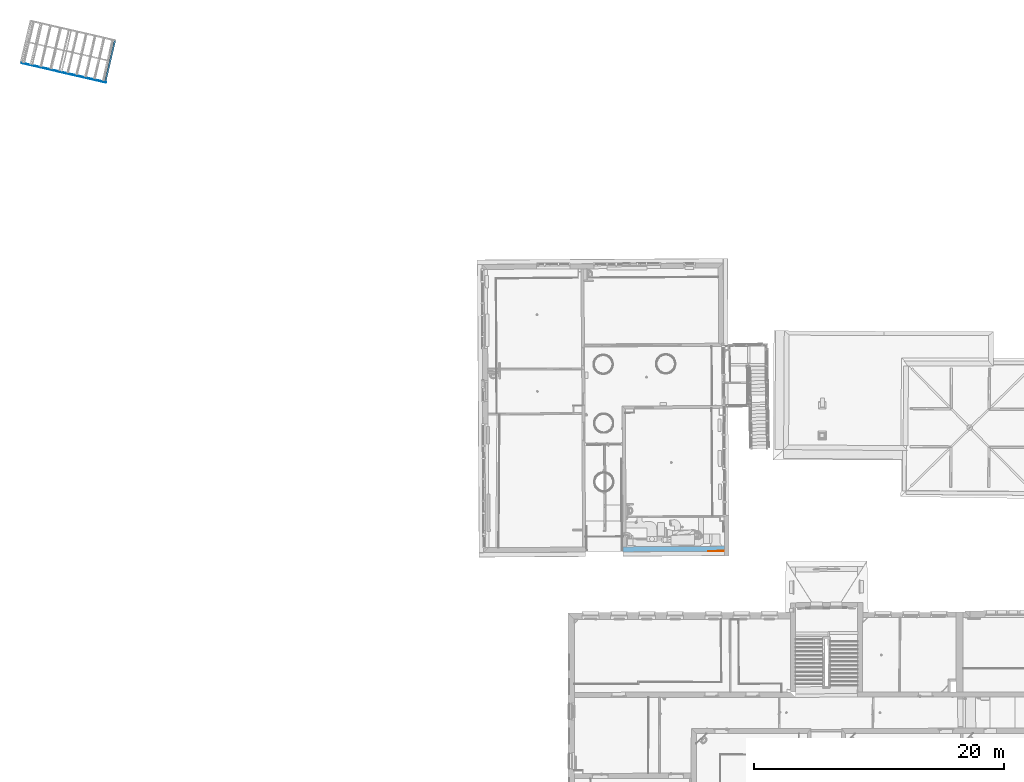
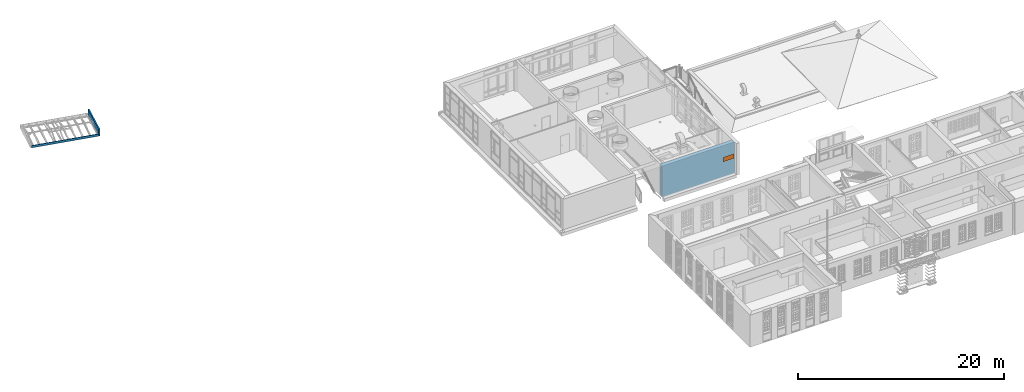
# One storey, part 73 of 158: 2 walls, 1 proxy, 1 opening, plus 1 element that does not belong to this part.
"""IFC2X3 building model written with IfcOpenShell, lengths in metres."""

from ifc_helpers import new_model, entity, si_unit, converted_unit, derived_unit, money_unit, direction, frame, origin_with_axes, origin_2d_with_axis, place, context, subcontext, project, spatial, polyline, rectangle, outline, extrude, boolean, faceted_brep, material, layer, layer_set, layer_usage, type_object, element, fill, save


model = new_model("IFC2X3")

# Units and contexts
model_context = context("Model", 3, precision=1e-05, world=origin_with_axes(), true_north=direction((0.0, 1.0)))
body_context = subcontext(model_context, "Body", "Model", "MODEL_VIEW")
ifc_project = project(units=[si_unit("LENGTHUNIT", "METRE"), si_unit("AREAUNIT", "SQUARE_METRE"), si_unit("VOLUMEUNIT", "CUBIC_METRE"), converted_unit("PLANEANGLEUNIT", "DEGREE", entity("IfcPlaneAngleMeasure", 0.0174532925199), si_unit("PLANEANGLEUNIT", "RADIAN"), dimensions=[0, 0, 0, 0, 0, 0, 0]), money_unit("EUR"), converted_unit("TIMEUNIT", "Year", entity("IfcTimeMeasure", 31556926.0), si_unit("TIMEUNIT", "SECOND"), dimensions=[0, 0, 1, 0, 0, 0, 0]), si_unit("MASSUNIT", "GRAM", prefix="KILO"), si_unit("THERMODYNAMICTEMPERATUREUNIT", "DEGREE_CELSIUS"), si_unit("LUMINOUSINTENSITYUNIT", "LUMEN"), si_unit("ENERGYUNIT", "JOULE", prefix="MEGA"), derived_unit("THERMALCONDUCTANCEUNIT", [(si_unit("POWERUNIT", "WATT"), 1), (si_unit("LENGTHUNIT", "METRE"), -1), (si_unit("THERMODYNAMICTEMPERATUREUNIT", "KELVIN"), -1)]), derived_unit("SPECIFICHEATCAPACITYUNIT", [(si_unit("ENERGYUNIT", "JOULE"), 1), (si_unit("MASSUNIT", "GRAM", prefix="KILO"), -1), (si_unit("THERMODYNAMICTEMPERATUREUNIT", "KELVIN"), -1)]), derived_unit("MASSDENSITYUNIT", [(si_unit("MASSUNIT", "GRAM", prefix="KILO"), 1), (si_unit("VOLUMEUNIT", "CUBIC_METRE"), -1)])], contexts=[model_context])

# Site, building, storey
site_placement = place(None, origin_with_axes())
site = spatial("IfcSite", under=ifc_project, at=site_placement, Name="Gelände", CompositionType="ELEMENT")
building_placement = place(site_placement, origin_with_axes())
building = spatial("IfcBuilding", under=site, at=building_placement, Name="Gebäude", CompositionType="ELEMENT")
storey_placement = place(building_placement, origin_with_axes())
storey = spatial("IfcBuildingStorey", under=building, at=storey_placement, Name="ERDGESCHOSS", CompositionType="ELEMENT", Elevation=0.0)

# Wall, opening, proxy
ifc_material = material(Name="05_ALLGEMEIN - TRAGENDE BAUTEILE")
ifc_layer = layer(ifc_material, 0.4, ventilated="UNKNOWN")
ifc_layer_set = layer_set([ifc_layer], Name="05_ALLGEMEIN - TRAGENDE BAUTEILE 0.4")
ifc_layer_usage = layer_usage(ifc_layer_set, "AXIS2", "NEGATIVE", 0.4)
wall_type_1 = type_object("IfcWallType", Name="05_ALLGEMEIN - TRAGENDE BAUTEILE 400", PredefinedType="ELEMENTEDWALL")
wall_1_placement = place(storey_placement, frame((-23.6482681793, 30.9080833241, 1.06), z_axis=(0.0, 0.0, 1.0), x_axis=(0.99998208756, 0.00598536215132, 0.0)))
wall_1 = element("IfcWallStandardCase", 1, at=wall_1_placement, inside=storey, type_object=wall_type_1, material=ifc_layer_usage, Name="Wand-030", ObjectType="ELEMENTEDWALL", context=body_context, shape_type="SweptSolid", body=[
    extrude(outline(polyline([(0.0, 0.0), (8.11228080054, 0.0), (8.11158811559, 0.4), (0.0, 0.4), (0.0, 0.0)])), origin_with_axes(), (0.0, 0.0, 1.0), 3.74),
])
opening_placement = place(wall_1_placement, frame((7.44071415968, 0.0, 1.81735066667), z_axis=(0.0, 0.0, 1.0), x_axis=(1.0, 0.0, 0.0)))
opening = element("IfcOpeningElement", 2, at=opening_placement, cuts=wall_1, Name="Fenster-015", context=body_context, shape_type="SweptSolid", body=[
    extrude(rectangle(XDim=1.2313048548, YDim=0.534565, at=origin_2d_with_axis()), frame((0.0, 0.4, 0.2672825), z_axis=(0.0, 1.0, 0.0), x_axis=(-1.0, 0.0, 0.0)), (0.0, 0.0, -1.0), 1.2),
])
building_element_proxy_type = type_object("IfcBuildingElementProxyType", Name="1-Flügelfenster 25", PredefinedType="NOTDEFINED")
proxy_placement = place(opening_placement, frame((-0.615652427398, 0.0, 0.0), z_axis=(0.0, 0.0, 1.0), x_axis=(1.0, 0.0, 0.0)))
proxy = element("IfcBuildingElementProxy", 3, at=proxy_placement, inside=storey, type_object=building_element_proxy_type, Name="Fenster-015", context=body_context, shape_type="Brep", body=[
    faceted_brep([(1.2313048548, 0.0, 0.0), (1.2312048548, 0.0, 0.0001), (1.2312048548, 0.02, 0.0001), (1.2313048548, 0.02, 0.0), (1.2313048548, 0.0, 0.534565), (1.2312048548, 0.0, 0.534465), (1.2312048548, 0.02, 0.534465), (1.2313048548, 0.02, 0.534565)], [[[0, 1, 2, 3]], [[0, 4, 5, 1]], [[1, 5, 6, 2]], [[3, 2, 6, 7]], [[4, 0, 3, 7]], [[5, 4, 7, 6]]]),
    faceted_brep([(0.0, 0.0, 0.0), (0.0, 0.0, 0.534565), (0.0, 0.02, 0.534565), (0.0, 0.02, 0.0), (9.99999999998e-05, 0.0, 0.0001), (9.99999999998e-05, 0.0, 0.534465), (0.000100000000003, 0.02, 0.534465), (0.000100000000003, 0.02, 0.0001)], [[[0, 1, 2, 3]], [[0, 4, 5, 1]], [[1, 5, 6, 2]], [[3, 2, 6, 7]], [[4, 0, 3, 7]], [[5, 4, 7, 6]]]),
    faceted_brep([(1.2313048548, 0.0, 0.0), (0.0, 0.0, 0.0), (0.0, 0.02, 0.0), (1.2313048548, 0.02, 0.0), (1.2312048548, 0.0, 0.0001), (0.615652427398, 0.0, 0.0001), (9.99999999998e-05, 0.0, 0.0001), (0.000100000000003, 0.02, 0.0001), (0.615652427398, 0.02, 0.0001), (1.2312048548, 0.02, 0.0001)], [[[0, 1, 2, 3]], [[0, 4, 5, 6, 1]], [[1, 6, 7, 2]], [[3, 2, 7, 8, 9]], [[4, 0, 3, 9]], [[5, 4, 9, 8]], [[6, 5, 8, 7]]]),
    faceted_brep([(1.2313048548, 0.0, 0.534565), (1.2312048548, 0.0, 0.534465), (1.2312048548, 0.02, 0.534465), (1.2313048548, 0.02, 0.534565), (0.0, 0.0, 0.534565), (9.99999999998e-05, 0.0, 0.534465), (0.615652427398, 0.0, 0.534465), (0.615652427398, 0.02, 0.534465), (0.000100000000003, 0.02, 0.534465), (0.0, 0.02, 0.534565)], [[[0, 1, 2, 3]], [[0, 4, 5, 6, 1]], [[1, 6, 7, 2]], [[3, 2, 7, 8, 9]], [[4, 0, 3, 9]], [[5, 4, 9, 8]], [[6, 5, 8, 7]]]),
    faceted_brep([(1.2312048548, 0.005, 0.0001), (9.99999999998e-05, 0.005, 0.0001), (0.000100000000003, 0.015, 0.0001), (1.2312048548, 0.015, 0.0001), (1.2312048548, 0.005, 0.534465), (9.99999999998e-05, 0.005, 0.534465), (0.000100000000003, 0.015, 0.534465), (1.2312048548, 0.015, 0.534465)], [[[0, 1, 2, 3]], [[0, 4, 5, 1]], [[1, 5, 6, 2]], [[3, 2, 6, 7]], [[4, 0, 3, 7]], [[5, 4, 7, 6]]]),
])
fill(opening, proxy)

# Walls
wall_type_2 = type_object("IfcWallType", Name="05_ALLGEMEIN - TRAGENDE BAUTEILE 50", PredefinedType="ELEMENTEDWALL")
wall_2_placement = place(storey_placement, frame((-71.9176288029, 70.030164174, 0.1099946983), z_axis=(0.0, 0.0, 1.0), x_axis=(0.97451919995, -0.224304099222, 0.0)))
element("IfcWall", 4, at=wall_2_placement, inside=storey, type_object=wall_type_2, material=ifc_material, Name="Wand-028", ObjectType="ELEMENTEDWALL", context=body_context, shape_type="CSG", body=[
    boolean("DIFFERENCE", boolean("DIFFERENCE", boolean("DIFFERENCE", boolean("DIFFERENCE", boolean("DIFFERENCE", extrude(outline(polyline([(0.0, 0.0), (7.05800514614, 0.0), (7.05800514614, 0.05), (0.0, 0.05), (0.0, 0.0)])), origin_with_axes(), (0.0, 0.0, 1.0), 0.307140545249), faceted_brep([(0.273172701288, 0.05, 0.098087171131), (0.273172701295, 0.05, 0.190286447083), (0.373176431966, 0.05, 0.190280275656), (0.373176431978, 0.05, 0.0977077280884), (0.27283518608, 0.0109266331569, 0.0983663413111), (0.27283518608, 0.0109266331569, 0.190565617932), (0.372831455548, 0.0100628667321, 0.190565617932), (0.372831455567, 0.0100628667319, 0.0979930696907)], [[[0, 1, 2, 3]], [[1, 0, 4, 5]], [[2, 1, 5, 6]], [[3, 2, 6, 7]], [[0, 3, 7, 4]], [[7, 6, 5, 4]]])), faceted_brep([(3.14445843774, 0.05, 0.0868451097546), (3.14445843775, 0.05, 0.180971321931), (3.24446258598, 0.05, 0.180970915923), (3.24446258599, 0.05, 0.0864630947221), (3.1442028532, 0.0219402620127, 0.086857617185), (3.1442028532, 0.0219402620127, 0.180983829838), (3.24419870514, 0.0210294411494, 0.180983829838), (3.24419870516, 0.0210294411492, 0.0864760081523)], [[[0, 1, 2, 3]], [[1, 0, 4, 5]], [[2, 1, 5, 6]], [[3, 2, 6, 7]], [[0, 3, 7, 4]], [[7, 6, 5, 4]]])), faceted_brep([(3.87752996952, 0.05, 0.0842098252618), (3.87752996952, 0.05, 0.187234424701), (3.9775308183, 0.05, 0.187233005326), (3.97753081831, 0.05, 0.0838289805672), (3.87742594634, 0.0247526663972, 0.0842968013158), (3.87742594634, 0.0247526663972, 0.187321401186), (3.97742509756, 0.0243406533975, 0.187321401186), (3.97742509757, 0.0243406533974, 0.0839173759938)], [[[0, 1, 2, 3]], [[1, 0, 4, 5]], [[2, 1, 5, 6]], [[3, 2, 6, 7]], [[0, 3, 7, 4]], [[7, 6, 5, 4]]])), faceted_brep([(4.61142972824, 0.05, 0.0814884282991), (4.61142972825, 0.05, 0.193347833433), (4.71143148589, 0.05, 0.193345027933), (4.7114314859, 0.05, 0.0811080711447), (4.61129672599, 0.0275675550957, 0.0815945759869), (4.61129672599, 0.0275675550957, 0.193453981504), (4.71129496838, 0.0269746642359, 0.193453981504), (4.7112949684, 0.0269746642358, 0.081217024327)], [[[0, 1, 2, 3]], [[1, 0, 4, 5]], [[2, 1, 5, 6]], [[3, 2, 6, 7]], [[0, 3, 7, 4]], [[7, 6, 5, 4]]])), faceted_brep([(7.05800514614, 0.0, 0.251790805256), (7.05800514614, 0.05, 0.263376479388), (7.05800514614, 0.05, 0.307140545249), (7.05800514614, 0.0, 0.307140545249), (0.127313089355, 0.05, 0.270247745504), (0.126970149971, 0.0, 0.25866241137), (0.127313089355, 0.05, 0.000180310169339), (0.127313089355, 0.05, 0.0), (0.0, 0.05, 0.0), (0.0, 0.05, 0.307140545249), (0.127313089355, 0.05, 0.0983546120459), (6.92607372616, 0.05, 0.0723730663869), (6.92607372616, 0.05, 0.0), (0.174496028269, 0.05, 0.0), (0.0, 0.0, 0.307140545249), (0.0, 0.0, 0.0), (0.126970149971, 0.0, 0.0), (0.12720523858, 0.0342755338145, 0.00018095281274), (0.12720523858, 0.0342755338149, 0.0983552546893), (0.127296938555, 0.0103683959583, 0.0983552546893), (6.92612571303, 0.0364464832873, 0.0723730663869), (6.92612571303, 0.0364464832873, 0.0), (0.174647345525, 0.0105500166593, 0.0), (0.127296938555, 0.0103683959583, 0.00018095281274)], [[[0, 1, 2, 3]], [[4, 1, 0, 5]], [[6, 7, 8, 9, 2, 1, 4, 10, 11, 12, 13]], [[9, 14, 3, 2]], [[5, 0, 3, 14, 15, 16]], [[10, 4, 5, 16, 7, 6, 17, 18]], [[7, 16, 15, 8]], [[9, 8, 15, 14]], [[11, 10, 18, 19, 20]], [[12, 11, 20, 21]], [[22, 13, 12, 21]], [[6, 13, 22, 23, 17]], [[19, 18, 17, 23]], [[22, 21, 20, 19, 23]]])),
])
wall_type_3 = type_object("IfcWallType", Name="05_ALLGEMEIN - TRAGENDE BAUTEILE 132", PredefinedType="ELEMENTEDWALL")
wall_3_placement = place(storey_placement, frame((-64.3643140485, 71.921765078, 0.1099946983), z_axis=(0.0, 0.0, 1.0), x_axis=(-0.227241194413, -0.973838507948, 0.0)))
element("IfcWall", 5, at=wall_3_placement, inside=storey, type_object=wall_type_3, material=ifc_material, Name="Wand-029", ObjectType="ELEMENTEDWALL", context=body_context, shape_type="CSG", body=[
    boolean("DIFFERENCE", boolean("DIFFERENCE", boolean("DIFFERENCE", extrude(outline(polyline([(-0.000343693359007, 0.0), (3.53765694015, 0.0), (3.53765694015, 0.132113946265), (-0.000343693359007, 0.132113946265), (-0.000343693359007, 0.0)])), origin_with_axes(), (0.0, 0.0, 1.0), 0.821071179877), faceted_brep([(3.53765694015, 0.132113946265, 0.0), (3.53765694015, 0.0, 0.0), (3.48293023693, 0.0, 0.0), (3.48765661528, 3.23790194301e-05, 0.0), (3.48725885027, 0.131963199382, 0.0), (3.53725862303, 0.132113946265, 0.0), (3.53765694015, 0.132113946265, 0.821071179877), (3.53765694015, 0.0, 0.821071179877), (-0.000343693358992, 0.0, 0.821071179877), (-0.000343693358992, 0.0, 0.0), (0.0, 0.0, 0.0), (0.0, 0.0, 0.247771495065), (1.77234413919, 0.0, 0.660961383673), (3.4876567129, 0.0, 0.263507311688), (3.4876567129, 0.0, 0.0723731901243), (3.48293023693, 0.0, 0.0723730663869), (3.48765661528, 3.23790194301e-05, 0.0723730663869), (3.48725885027, 0.131963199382, 0.263376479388), (3.53722317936, 0.132113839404, 0.251799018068), (3.53722317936, 0.132113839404, 0.0500053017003), (1.77170374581, 0.132113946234, 0.66088649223), (-0.000343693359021, 0.132113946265, 0.247765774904), (-0.000343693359, 0.132113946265, 0.821071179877), (-0.000343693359, 0.132113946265, 0.0)], [[[0, 1, 2, 3, 4, 5]], [[1, 0, 6, 7]], [[2, 1, 7, 8, 9, 10, 11, 12, 13, 14, 15]], [[16, 3, 2, 15]], [[3, 16, 14, 13, 17, 4]], [[18, 19, 5, 4, 17]], [[0, 5, 19, 18, 20, 21, 22, 6]], [[7, 6, 22, 8]], [[21, 23, 9, 8, 22]], [[23, 10, 9]], [[10, 23, 21, 11]], [[20, 12, 11, 21]], [[17, 13, 12, 20, 18]], [[14, 16, 15]]])), faceted_brep([(1.80556443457, 0.0, 0.491975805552), (1.80556443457, 0.0, 0.590149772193), (1.72563745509, 0.0, 0.590150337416), (1.72563745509, 0.0, 0.491976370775), (1.80556302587, 0.000555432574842, 0.491977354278), (1.80556302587, 0.000555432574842, 0.590151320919), (1.72563656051, 0.00035272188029, 0.590151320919), (1.72563656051, 0.00035272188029, 0.491977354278)], [[[0, 1, 2, 3]], [[1, 0, 4, 5]], [[1, 5, 6, 2]], [[6, 7, 3, 2]], [[0, 3, 7, 4]], [[4, 7, 6, 5]]])), faceted_brep([(0.125594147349, 0.0, 0.0), (0.125594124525, 0.000329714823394, 0.0), (0.125594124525, 0.000329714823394, 0.0668510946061), (0.125594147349, 0.0, 0.0668514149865), (0.0456674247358, 0.0, 0.0), (0.0456674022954, 0.000324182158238, 0.0), (0.0456674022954, 0.000324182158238, 0.0668510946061), (0.0456674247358, 0.0, 0.0668514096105)], [[[0, 1, 2, 3]], [[1, 0, 4, 5]], [[2, 1, 5, 6]], [[3, 2, 6, 7]], [[0, 3, 7, 4]], [[4, 7, 6, 5]]])),
])

save(model, "model.ifc")
